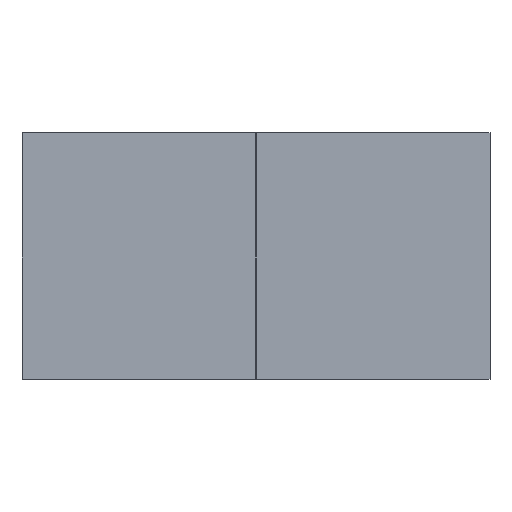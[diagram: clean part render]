
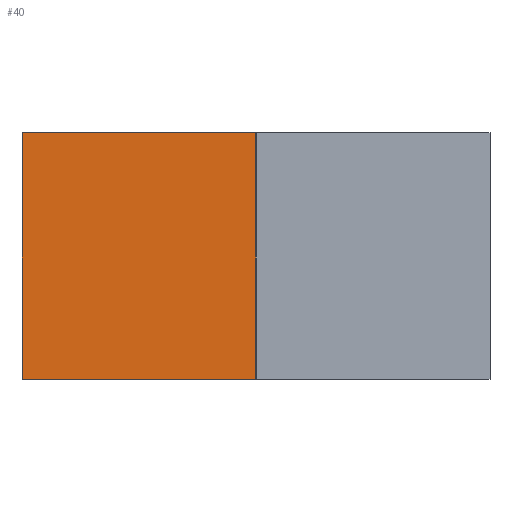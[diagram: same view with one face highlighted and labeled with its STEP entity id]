
A CAD part, top view. The second image highlights one B-rep face of the part: STEP entity #40.
In plain terms, the highlighted planar face has unit normal (0, 0, 1).
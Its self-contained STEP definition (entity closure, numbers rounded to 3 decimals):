
#40=ADVANCED_FACE('',(#52),#356,.T.);
#52=FACE_OUTER_BOUND('',#64,.T.);
#64=EDGE_LOOP('',(#91,#92,#93,#94));
#91=ORIENTED_EDGE('',*,*,#241,.F.);
#92=ORIENTED_EDGE('',*,*,#245,.F.);
#93=ORIENTED_EDGE('',*,*,#248,.F.);
#94=ORIENTED_EDGE('',*,*,#250,.F.);
#121=PCURVE('',#351,#169);
#125=PCURVE('',#352,#173);
#129=PCURVE('',#353,#177);
#133=PCURVE('',#354,#181);
#139=PCURVE('',#356,#187);
#140=PCURVE('',#356,#188);
#141=PCURVE('',#356,#189);
#142=PCURVE('',#356,#190);
#169=DEFINITIONAL_REPRESENTATION('',(#268),#586);
#173=DEFINITIONAL_REPRESENTATION('',(#276),#586);
#177=DEFINITIONAL_REPRESENTATION('',(#283),#586);
#181=DEFINITIONAL_REPRESENTATION('',(#289),#586);
#187=DEFINITIONAL_REPRESENTATION('',(#295),#586);
#188=DEFINITIONAL_REPRESENTATION('',(#296),#586);
#189=DEFINITIONAL_REPRESENTATION('',(#297),#586);
#190=DEFINITIONAL_REPRESENTATION('',(#298),#586);
#217=SURFACE_CURVE('',#267,(#121,#139),.PCURVE_S1.);
#221=SURFACE_CURVE('',#275,(#125,#140),.PCURVE_S1.);
#224=SURFACE_CURVE('',#282,(#129,#141),.PCURVE_S1.);
#226=SURFACE_CURVE('',#288,(#133,#142),.PCURVE_S1.);
#241=EDGE_CURVE('',#337,#338,#217,.T.);
#245=EDGE_CURVE('',#340,#337,#221,.T.);
#248=EDGE_CURVE('',#342,#340,#224,.T.);
#250=EDGE_CURVE('',#338,#342,#226,.T.);
#267=B_SPLINE_CURVE_WITH_KNOTS('',1,(#435,#436),.UNSPECIFIED.,.F.,.F.,(2,
2),(-848.,0.),.UNSPECIFIED.);
#268=B_SPLINE_CURVE_WITH_KNOTS('',1,(#437,#438),.UNSPECIFIED.,.F.,.F.,(2,
2),(-848.,0.),.UNSPECIFIED.);
#275=B_SPLINE_CURVE_WITH_KNOTS('',1,(#451,#452),.UNSPECIFIED.,.F.,.F.,(2,
2),(-1769.,-848.),.UNSPECIFIED.);
#276=B_SPLINE_CURVE_WITH_KNOTS('',1,(#453,#454),.UNSPECIFIED.,.F.,.F.,(2,
2),(-1769.,-848.),.UNSPECIFIED.);
#282=B_SPLINE_CURVE_WITH_KNOTS('',1,(#465,#466),.UNSPECIFIED.,.F.,.F.,(2,
2),(-2617.,-1769.),.UNSPECIFIED.);
#283=B_SPLINE_CURVE_WITH_KNOTS('',1,(#467,#468),.UNSPECIFIED.,.F.,.F.,(2,
2),(-2617.,-1769.),.UNSPECIFIED.);
#288=B_SPLINE_CURVE_WITH_KNOTS('',1,(#477,#478),.UNSPECIFIED.,.F.,.F.,(2,
2),(-3538.,-2617.),.UNSPECIFIED.);
#289=B_SPLINE_CURVE_WITH_KNOTS('',1,(#479,#480),.UNSPECIFIED.,.F.,.F.,(2,
2),(-3538.,-2617.),.UNSPECIFIED.);
#295=B_SPLINE_CURVE_WITH_KNOTS('',1,(#491,#492),.UNSPECIFIED.,.F.,.F.,(2,
2),(-848.,0.),.UNSPECIFIED.);
#296=B_SPLINE_CURVE_WITH_KNOTS('',1,(#493,#494),.UNSPECIFIED.,.F.,.F.,(2,
2),(-1769.,-848.),.UNSPECIFIED.);
#297=B_SPLINE_CURVE_WITH_KNOTS('',1,(#495,#496),.UNSPECIFIED.,.F.,.F.,(2,
2),(-2617.,-1769.),.UNSPECIFIED.);
#298=B_SPLINE_CURVE_WITH_KNOTS('',1,(#497,#498),.UNSPECIFIED.,.F.,.F.,(2,
2),(-3538.,-2617.),.UNSPECIFIED.);
#337=VERTEX_POINT('',#421);
#338=VERTEX_POINT('',#422);
#340=VERTEX_POINT('',#424);
#342=VERTEX_POINT('',#426);
#351=PLANE('',#383);
#352=PLANE('',#384);
#353=PLANE('',#385);
#354=PLANE('',#386);
#356=PLANE('',#388);
#383=AXIS2_PLACEMENT_3D('',#413,#398,$);
#384=AXIS2_PLACEMENT_3D('',#414,#399,$);
#385=AXIS2_PLACEMENT_3D('',#415,#400,$);
#386=AXIS2_PLACEMENT_3D('',#416,#401,$);
#388=AXIS2_PLACEMENT_3D('',#418,#403,$);
#398=DIRECTION('',(0.,-1.,0.));
#399=DIRECTION('',(1.,0.,0.));
#400=DIRECTION('',(0.,1.,0.));
#401=DIRECTION('',(-1.,0.,0.));
#403=DIRECTION('',(0.,0.,1.));
#413=CARTESIAN_POINT('',(-848.,-588.,180.));
#414=CARTESIAN_POINT('',(-1.,-588.,180.));
#415=CARTESIAN_POINT('',(-1.,304.,180.));
#416=CARTESIAN_POINT('',(-848.,304.,180.));
#418=CARTESIAN_POINT('',(-848.,-588.,183.));
#421=CARTESIAN_POINT('',(-1.,-588.,183.));
#422=CARTESIAN_POINT('',(-848.,-588.,183.));
#424=CARTESIAN_POINT('',(-1.,304.,183.));
#426=CARTESIAN_POINT('',(-848.,304.,183.));
#435=CARTESIAN_POINT('',(-1.,-588.,183.));
#436=CARTESIAN_POINT('',(-848.,-588.,183.));
#437=CARTESIAN_POINT('',(848.,3.));
#438=CARTESIAN_POINT('',(0.,3.));
#451=CARTESIAN_POINT('',(-1.,304.,183.));
#452=CARTESIAN_POINT('',(-1.,-588.,183.));
#453=CARTESIAN_POINT('',(1769.,3.));
#454=CARTESIAN_POINT('',(848.,3.));
#465=CARTESIAN_POINT('',(-848.,304.,183.));
#466=CARTESIAN_POINT('',(-1.,304.,183.));
#467=CARTESIAN_POINT('',(2617.,3.));
#468=CARTESIAN_POINT('',(1769.,3.));
#477=CARTESIAN_POINT('',(-848.,-588.,183.));
#478=CARTESIAN_POINT('',(-848.,304.,183.));
#479=CARTESIAN_POINT('',(3538.,3.));
#480=CARTESIAN_POINT('',(2617.,3.));
#491=CARTESIAN_POINT('',(847.,0.));
#492=CARTESIAN_POINT('',(0.,0.));
#493=CARTESIAN_POINT('',(847.,892.));
#494=CARTESIAN_POINT('',(847.,0.));
#495=CARTESIAN_POINT('',(0.,892.));
#496=CARTESIAN_POINT('',(847.,892.));
#497=CARTESIAN_POINT('',(0.,0.));
#498=CARTESIAN_POINT('',(0.,892.));
#586=(
GEOMETRIC_REPRESENTATION_CONTEXT(2)
PARAMETRIC_REPRESENTATION_CONTEXT()
REPRESENTATION_CONTEXT('pspace','')
);
